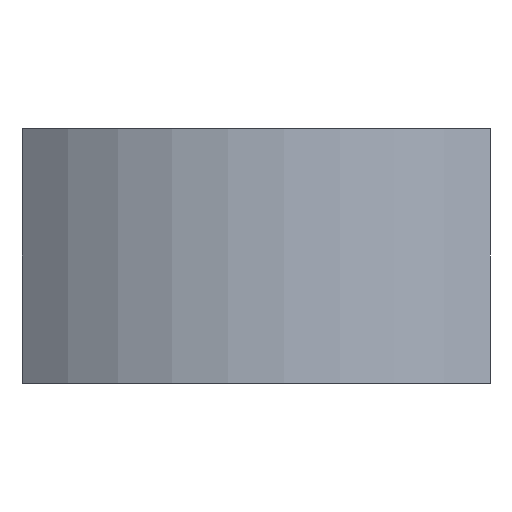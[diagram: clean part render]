
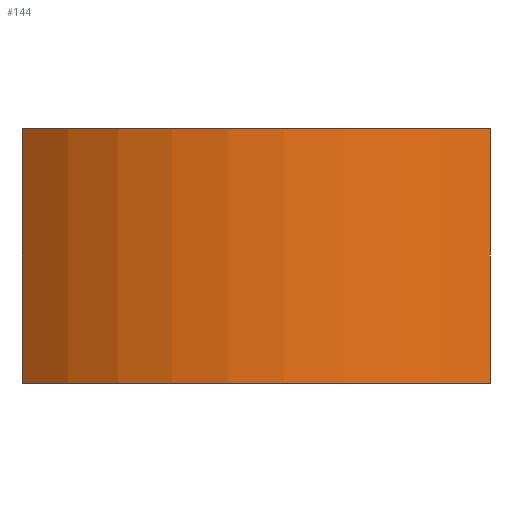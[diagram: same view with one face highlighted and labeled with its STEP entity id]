
A CAD part, front view. The second image highlights one B-rep face of the part: STEP entity #144.
In plain terms, the highlighted cylindrical face has radius 28.5 mm (diameter 57 mm), a partial arc.
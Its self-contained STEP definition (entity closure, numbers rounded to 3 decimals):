
#144=ADVANCED_FACE('',(#248),#947,.T.);
#248=FACE_OUTER_BOUND('',#352,.F.);
#352=EDGE_LOOP('',(#477,#478,#479,#480));
#477=ORIENTED_EDGE('',*,*,#1317,.T.);
#478=ORIENTED_EDGE('',*,*,#1319,.F.);
#479=ORIENTED_EDGE('',*,*,#1318,.T.);
#480=ORIENTED_EDGE('',*,*,#1320,.T.);
#947=CYLINDRICAL_SURFACE('',#1789,28.5);
#1006=LINE('',#2618,#1102);
#1007=LINE('',#2619,#1103);
#1102=VECTOR('',#1954,20.);
#1103=VECTOR('',#1955,20.);
#1202=CIRCLE('',#1722,28.5);
#1203=CIRCLE('',#1723,28.5);
#1317=EDGE_CURVE('',#1651,#1650,#1202,.T.);
#1318=EDGE_CURVE('',#1649,#1648,#1203,.T.);
#1319=EDGE_CURVE('',#1649,#1650,#1006,.T.);
#1320=EDGE_CURVE('',#1648,#1651,#1007,.T.);
#1648=VERTEX_POINT('',#2559);
#1649=VERTEX_POINT('',#2560);
#1650=VERTEX_POINT('',#2561);
#1651=VERTEX_POINT('',#2562);
#1722=AXIS2_PLACEMENT_3D('',#2616,#1950,#1951);
#1723=AXIS2_PLACEMENT_3D('',#2617,#1952,#1953);
#1789=AXIS2_PLACEMENT_3D('',#2822,#2140,#2141);
#1950=DIRECTION('',(0.,0.,1.));
#1951=DIRECTION('',(-0.645,-0.764,0.));
#1952=DIRECTION('',(0.,0.,-1.));
#1953=DIRECTION('',(0.645,-0.764,0.));
#1954=DIRECTION('',(0.,0.,1.));
#1955=DIRECTION('',(0.,0.,1.));
#2140=DIRECTION('',(0.,0.,1.));
#2141=DIRECTION('',(-0.645,-0.764,0.));
#2559=CARTESIAN_POINT('',(178.667,13.844,-49.));
#2560=CARTESIAN_POINT('',(215.417,13.844,-49.));
#2561=CARTESIAN_POINT('',(215.417,13.844,-29.));
#2562=CARTESIAN_POINT('',(178.667,13.844,-29.));
#2616=CARTESIAN_POINT('',(197.042,35.63,-29.));
#2617=CARTESIAN_POINT('',(197.042,35.63,-49.));
#2618=CARTESIAN_POINT('',(215.417,13.844,-49.));
#2619=CARTESIAN_POINT('',(178.667,13.844,-49.));
#2822=CARTESIAN_POINT('',(197.042,35.63,-49.));
